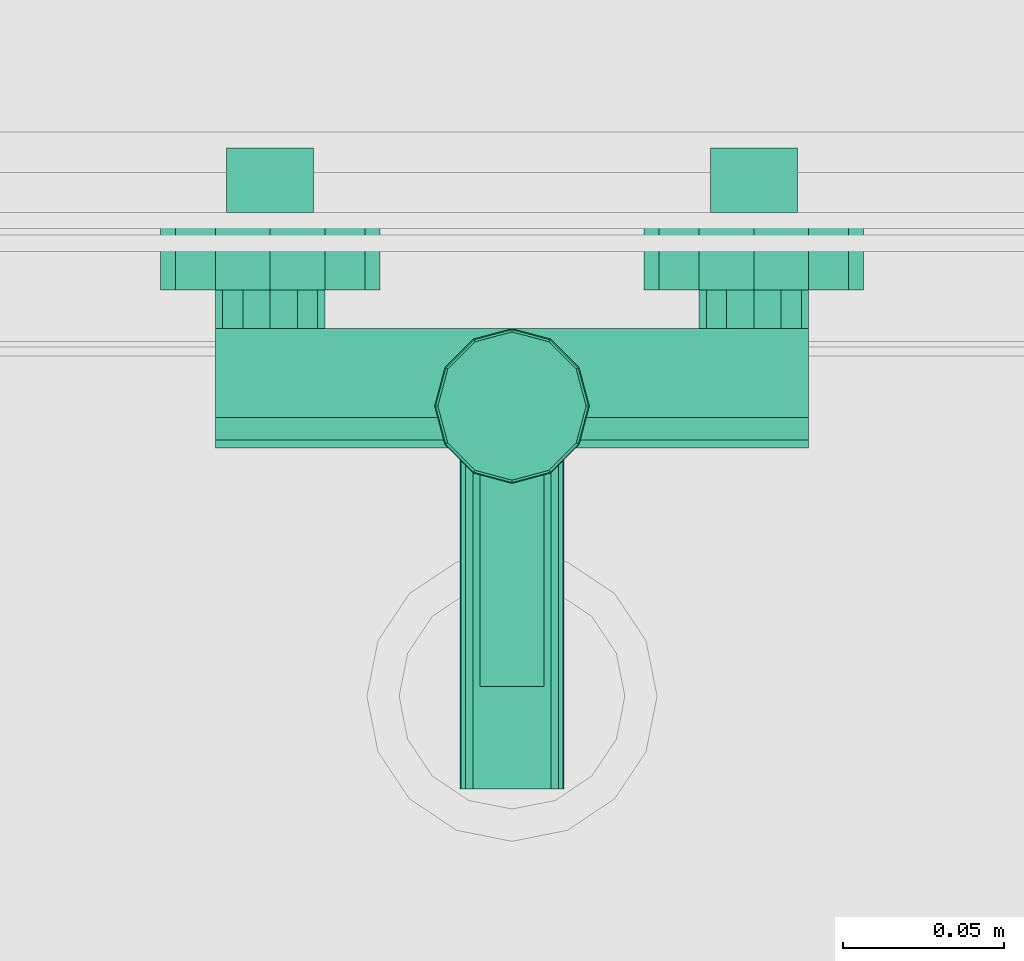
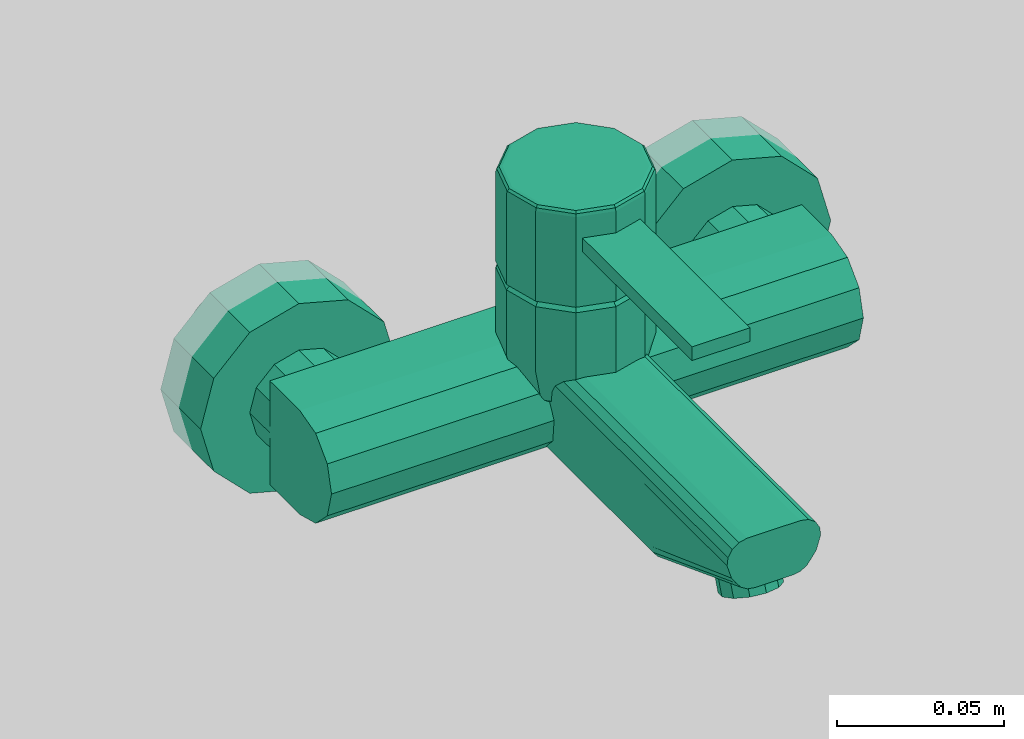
# One storey, part 121 of 165: 1 flow storage device.
"""IFC2X3 building model written with IfcOpenShell, lengths in millimetres."""

from ifc_helpers import new_model, entity, si_unit, converted_unit, derived_unit, money_unit, direction, frame, origin_with_axes, place, context, subcontext, project, spatial, open_shell, faceted_brep, surface_model, source, transform, mapped, type_object, type_shapes, element, save


model = new_model("IFC2X3")

# Units and contexts
model_context = context("Model", 3, precision=0.01, world=origin_with_axes(), true_north=direction((0.0, 1.0)))
body_context = subcontext(model_context, "Body", "Model", "MODEL_VIEW")
ifc_project = project(units=[si_unit("LENGTHUNIT", "METRE", prefix="MILLI"), si_unit("AREAUNIT", "SQUARE_METRE"), si_unit("VOLUMEUNIT", "CUBIC_METRE"), converted_unit("PLANEANGLEUNIT", "DEGREE", entity("IfcPlaneAngleMeasure", 0.0174532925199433), si_unit("PLANEANGLEUNIT", "RADIAN"), dimensions=[0, 0, 0, 0, 0, 0, 0]), money_unit("EUR"), converted_unit("TIMEUNIT", "Year", entity("IfcTimeMeasure", 31556926.0), si_unit("TIMEUNIT", "SECOND"), dimensions=[0, 0, 1, 0, 0, 0, 0]), si_unit("MASSUNIT", "GRAM", prefix="KILO"), si_unit("THERMODYNAMICTEMPERATUREUNIT", "DEGREE_CELSIUS"), si_unit("LUMINOUSINTENSITYUNIT", "LUMEN"), si_unit("ENERGYUNIT", "JOULE", prefix="MEGA"), derived_unit("THERMALCONDUCTANCEUNIT", [(si_unit("POWERUNIT", "WATT"), 1), (si_unit("LENGTHUNIT", "METRE"), -1), (si_unit("THERMODYNAMICTEMPERATUREUNIT", "KELVIN"), -1)]), derived_unit("SPECIFICHEATCAPACITYUNIT", [(si_unit("ENERGYUNIT", "JOULE"), 1), (si_unit("MASSUNIT", "GRAM", prefix="KILO"), -1), (si_unit("THERMODYNAMICTEMPERATUREUNIT", "KELVIN"), -1)]), derived_unit("MASSDENSITYUNIT", [(si_unit("MASSUNIT", "GRAM", prefix="KILO"), 1), (si_unit("VOLUMEUNIT", "CUBIC_METRE"), -1)])], contexts=[model_context])

# Site, building, storey
site_placement = place(None, origin_with_axes())
site = spatial("IfcSite", under=ifc_project, at=site_placement, Name="Site", CompositionType="ELEMENT")
building_placement = place(site_placement, origin_with_axes())
building = spatial("IfcBuilding", under=site, at=building_placement, Name="Naam gebouw", CompositionType="ELEMENT")
storey_placement = place(building_placement, origin_with_axes())
storey = spatial("IfcBuildingStorey", under=building, at=storey_placement, Name="Begane grond", CompositionType="ELEMENT", Elevation=0.0)

# Flow storage device
tank_type = type_object("IfcTankType", Name="Kraan wand 26", PredefinedType="EXPANSION")
shared_shape = source(origin_with_axes(), body_context, "Body", "SurfaceModel", [
    faceted_brep([(-45.55513627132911, 0.0, 1183.0), (-58.00000000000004, 0.0, 1170.555136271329), (-75.00000000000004, 0.0, 1166.0), (-92.00000000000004, 0.0, 1170.555136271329), (-104.4448637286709, 0.0, 1183.0), (-109.0, 0.0, 1200.0), (-104.4448637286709, 0.0, 1217.0), (-92.0, 0.0, 1229.444863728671), (-75.0, 0.0, 1234.0), (-58.0, 0.0, 1229.444863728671), (-45.5551362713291, 0.0, 1217.0), (-41.00000000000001, 0.0, 1200.0), (-45.55513627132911, -24.0, 1183.0), (-58.00000000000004, -24.0, 1170.555136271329), (-75.00000000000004, -24.0, 1166.0), (-92.00000000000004, -24.0, 1170.555136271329), (-104.4448637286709, -24.0, 1183.0), (-109.0, -24.0, 1200.0), (-104.4448637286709, -24.0, 1217.0), (-92.0, -24.0, 1229.444863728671), (-75.0, -24.0, 1234.0), (-58.0, -24.0, 1229.444863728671), (-45.5551362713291, -24.0, 1217.0), (-41.00000000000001, -24.0, 1200.0)], [[[0, 1, 2, 3, 4, 5, 6, 7, 8, 9, 10, 11]], [[1, 0, 12, 13]], [[2, 1, 13, 14]], [[3, 2, 14, 15]], [[4, 3, 15, 16]], [[5, 4, 16, 17]], [[6, 5, 17, 18]], [[7, 6, 18, 19]], [[8, 7, 19, 20]], [[9, 8, 20, 21]], [[10, 9, 21, 22]], [[11, 10, 22, 23]], [[0, 11, 23, 12]], [[12, 23, 22, 21, 20, 19, 18, 17, 16, 15, 14, 13]]]),
    faceted_brep([(-60.27756813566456, -24.0, 1191.5), (-66.50000000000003, -24.0, 1185.277568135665), (-75.00000000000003, -24.0, 1183.0), (-83.50000000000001, -24.0, 1185.277568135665), (-89.72243186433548, -24.0, 1191.5), (-92.00000000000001, -24.0, 1200.0), (-89.72243186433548, -24.0, 1208.5), (-83.5, -24.0, 1214.722431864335), (-75.00000000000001, -24.0, 1217.0), (-66.5, -24.0, 1214.722431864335), (-60.27756813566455, -24.0, 1208.5), (-58.00000000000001, -24.0, 1200.0), (-60.27756813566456, -36.00000000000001, 1191.5), (-66.50000000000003, -36.00000000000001, 1185.277568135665), (-75.00000000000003, -36.00000000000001, 1183.0), (-83.50000000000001, -36.00000000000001, 1185.277568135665), (-89.72243186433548, -36.00000000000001, 1191.5), (-92.00000000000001, -36.00000000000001, 1200.0), (-89.72243186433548, -36.00000000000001, 1208.5), (-83.5, -36.0, 1214.722431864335), (-75.00000000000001, -36.0, 1217.0), (-66.5, -36.0, 1214.722431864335), (-60.27756813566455, -36.00000000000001, 1208.5), (-58.00000000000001, -36.00000000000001, 1200.0)], [[[0, 1, 2, 3, 4, 5, 6, 7, 8, 9, 10, 11]], [[1, 0, 12, 13]], [[2, 1, 13, 14]], [[3, 2, 14, 15]], [[4, 3, 15, 16]], [[5, 4, 16, 17]], [[6, 5, 17, 18]], [[7, 6, 18, 19]], [[8, 7, 19, 20]], [[9, 8, 20, 21]], [[10, 9, 21, 22]], [[11, 10, 22, 23]], [[0, 11, 23, 12]], [[12, 23, 22, 21, 20, 19, 18, 17, 16, 15, 14, 13]]]),
    faceted_brep([(45.55513627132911, 0.0, 1183.0), (41.00000000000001, 0.0, 1200.0), (45.5551362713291, 0.0, 1217.0), (58.0, 0.0, 1229.444863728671), (75.0, 0.0, 1234.0), (92.0, 0.0, 1229.444863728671), (104.4448637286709, 0.0, 1217.0), (109.0, 0.0, 1200.0), (104.4448637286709, 0.0, 1183.0), (92.00000000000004, 0.0, 1170.555136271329), (75.00000000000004, 0.0, 1166.0), (58.00000000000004, 0.0, 1170.555136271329), (45.55513627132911, -24.0, 1183.0), (41.00000000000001, -24.0, 1200.0), (45.5551362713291, -24.0, 1217.0), (58.0, -24.0, 1229.444863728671), (75.0, -24.0, 1234.0), (92.0, -24.0, 1229.444863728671), (104.4448637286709, -24.0, 1217.0), (109.0, -24.0, 1200.0), (104.4448637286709, -24.0, 1183.0), (92.00000000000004, -24.0, 1170.555136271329), (75.00000000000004, -24.0, 1166.0), (58.00000000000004, -24.0, 1170.555136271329)], [[[0, 1, 2, 3, 4, 5, 6, 7, 8, 9, 10, 11]], [[0, 12, 13, 1]], [[1, 13, 14, 2]], [[2, 14, 15, 3]], [[3, 15, 16, 4]], [[4, 16, 17, 5]], [[5, 17, 18, 6]], [[6, 18, 19, 7]], [[7, 19, 20, 8]], [[8, 20, 21, 9]], [[9, 21, 22, 10]], [[10, 22, 23, 11]], [[11, 23, 12, 0]], [[12, 23, 22, 21, 20, 19, 18, 17, 16, 15, 14, 13]]]),
    faceted_brep([(60.27756813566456, -24.0, 1191.5), (58.00000000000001, -24.0, 1200.0), (60.27756813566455, -24.0, 1208.5), (66.5, -24.0, 1214.722431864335), (75.00000000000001, -24.0, 1217.0), (83.5, -24.0, 1214.722431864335), (89.72243186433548, -24.0, 1208.5), (92.00000000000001, -24.0, 1200.0), (89.72243186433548, -24.0, 1191.5), (83.50000000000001, -24.0, 1185.277568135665), (75.00000000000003, -24.0, 1183.0), (66.50000000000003, -24.0, 1185.277568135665), (60.27756813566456, -36.00000000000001, 1191.5), (58.00000000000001, -36.00000000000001, 1200.0), (60.27756813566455, -36.00000000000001, 1208.5), (66.5, -36.0, 1214.722431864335), (75.00000000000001, -36.0, 1217.0), (83.5, -36.0, 1214.722431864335), (89.72243186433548, -36.00000000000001, 1208.5), (92.00000000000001, -36.00000000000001, 1200.0), (89.72243186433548, -36.00000000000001, 1191.5), (83.50000000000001, -36.00000000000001, 1185.277568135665), (75.00000000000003, -36.00000000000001, 1183.0), (66.50000000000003, -36.00000000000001, 1185.277568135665)], [[[0, 1, 2, 3, 4, 5, 6, 7, 8, 9, 10, 11]], [[0, 12, 13, 1]], [[1, 13, 14, 2]], [[2, 14, 15, 3]], [[3, 15, 16, 4]], [[4, 16, 17, 5]], [[5, 17, 18, 6]], [[6, 18, 19, 7]], [[7, 19, 20, 8]], [[8, 20, 21, 9]], [[9, 21, 22, 10]], [[10, 22, 23, 11]], [[11, 23, 12, 0]], [[12, 23, 22, 21, 20, 19, 18, 17, 16, 15, 14, 13]]]),
    faceted_brep([(22.39230484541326, -54.0, 1219.0), (23.56921938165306, -59.99999999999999, 1217.392304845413), (22.3801085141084, -63.5, 1216.454482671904), (92.0, -63.5, 1216.454482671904), (92.0, -54.0, 1219.0), (24.0, -59.99999999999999, 1219.0), (20.78460969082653, -72.0, 1219.0), (18.42264973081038, -70.63632178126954, 1208.821367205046), (18.65321248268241, -70.45448267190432, 1209.5), (92.0, -70.45448267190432, 1209.5), (92.0, -36.00000000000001, 1181.0), (92.0, -36.00000000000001, 1219.0), (92.0, -73.00000000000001, 1200.0), (92.0, -70.45448267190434, 1190.5), (92.0, -63.5, 1183.545517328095), (92.0, -54.00000000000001, 1181.0), (20.78460969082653, -47.99999999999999, 1219.0), (0.0, -36.00000000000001, 1219.0), (12.0, -39.21539030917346, 1219.0), (20.78460969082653, -47.99999999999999, 1243.0), (24.0, -59.99999999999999, 1243.0), (20.78460969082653, -72.0, 1243.0), (17.26794919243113, -71.12435565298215, 1207.0), (12.00000000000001, -80.78460969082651, 1219.0), (11.92314238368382, -80.65148839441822, 1218.426326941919), (12.07189135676, -80.49116546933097, 1218.39470631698), (14.42686544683, -77.50984837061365, 1216.68350539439), (15.88213414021, -75.13176694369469, 1214.16233412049), (16.18602173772, -73.76818909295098, 1211.26720650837), (15.73684210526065, -72.65546274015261, 1207.0), (15.6314139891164, -71.39272474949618, 1205.998432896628), (14.99999999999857, -73.00000000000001, 1200.0), (-92.0, -36.00000000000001, 1181.0), (-92.0, -36.00000000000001, 1219.0), (14.00000000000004, -70.45448267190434, 1190.5), (12.93483876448, -64.77581392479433, 1184.82133125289), (11.95567316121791, -63.5, 1183.545517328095), (13.65970594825, -67.22168918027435, 1187.26720650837), (9.206486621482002, -55.73480068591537, 1181.46483844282), (6.698167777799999, -54.00000000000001, 1181.0), (11.38167317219, -60.70880215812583, 1182.79761812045), (-6.698167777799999, -54.00000000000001, 1181.0), (-92.0, -54.00000000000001, 1181.0), (6.698167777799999, -128.7, 1181.0), (-6.698167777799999, -128.7, 1181.0), (0.0, -36.00000000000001, 1243.0), (12.0, -39.21539030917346, 1243.0), (19.05255888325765, -48.99999999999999, 1245.0), (22.0, -59.99999999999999, 1245.0), (19.05255888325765, -71.0, 1245.0), (12.00000000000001, -80.78460969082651, 1243.0), (9.224483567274, -81.52830707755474, 1219.0), (9.224483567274, -178.7, 1219.0), (12.07189135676, -178.7, 1218.39470631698), (14.42686544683, -178.7, 1216.68350539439), (15.88213414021, -178.7, 1214.16233412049), (16.18602173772, -178.7, 1211.26720650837), (13.65970594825, -128.7, 1187.26720650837), (-92.0, -54.0, 1219.0), (-92.0, -63.5, 1183.545517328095), (-92.0, -70.45448267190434, 1190.5), (-92.0, -73.00000000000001, 1200.0), (-92.0, -70.45448267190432, 1209.5), (-92.0, -63.5, 1216.454482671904), (-12.00000000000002, -39.21539030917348, 1219.0), (-22.39230484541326, -54.0, 1219.0), (-20.78460969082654, -48.00000000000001, 1219.0), (12.93483876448, -128.7, 1184.82133125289), (11.38167317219, -128.7, 1182.79761812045), (9.206486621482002, -128.7, 1181.46483844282), (-11.38167317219, -60.70880215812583, 1182.79761812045), (-11.95567316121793, -63.5, 1183.545517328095), (-9.206486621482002, -55.73480068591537, 1181.46483844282), (-6.698167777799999, -156.6122297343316, 1191.606647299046), (6.698167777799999, -156.6122297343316, 1191.606647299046), (5.000000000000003, -155.02481037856, 1191.003427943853), (0.0, -153.7724378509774, 1190.527526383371), (-4.999999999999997, -155.02481037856, 1191.003427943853), (-9.206486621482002, -128.7, 1181.46483844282), (-12.00000000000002, -39.21539030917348, 1243.0), (0.0, -38.00000000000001, 1245.0), (11.0, -40.94744111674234, 1245.0), (-20.78460969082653, -47.99999999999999, 1245.0), (-12.0, -39.21539030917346, 1245.0), (0.0, -36.00000000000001, 1245.0), (12.00000000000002, -39.21539030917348, 1245.0), (20.78460969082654, -48.00000000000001, 1245.0), (24.0, -60.00000000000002, 1245.0), (20.78460969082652, -72.00000000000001, 1245.0), (11.99999999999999, -80.78460969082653, 1245.0), (0.0, -83.99999999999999, 1245.0), (-12.00000000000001, -80.78460969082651, 1245.0), (-20.78460969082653, -72.0, 1245.0), (-24.0, -59.99999999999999, 1245.0), (11.00000000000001, -79.05255888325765, 1245.0), (-11.00000000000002, -40.94744111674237, 1245.0), (-19.05255888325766, -49.00000000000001, 1245.0), (-22.0, -60.00000000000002, 1245.0), (-19.05255888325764, -71.00000000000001, 1245.0), (-10.99999999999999, -79.05255888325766, 1245.0), (0.0, -81.99999999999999, 1245.0), (0.0, -83.99999999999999, 1243.0), (0.0, -83.99999999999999, 1219.0), (-15.88213414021, -178.7, 1214.16233412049), (-16.18602173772, -178.7, 1211.26720650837), (-14.65970594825, -178.7, 1206.26720650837), (-12.93483876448, -178.7, 1203.82133125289), (-11.38167317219, -178.7, 1201.79761812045), (-9.206486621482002, -178.7, 1200.46483844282), (-6.698167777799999, -178.7, 1200.0), (6.698167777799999, -178.7, 1200.0), (9.206486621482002, -178.7, 1200.46483844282), (11.38167317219, -178.7, 1201.79761812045), (12.93483876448, -178.7, 1203.82133125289), (14.65970594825, -178.7, 1206.26720650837), (-9.224483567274, -178.7, 1219.0), (-12.07189135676, -178.7, 1218.39470631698), (-14.42686544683, -178.7, 1216.68350539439), (-9.224483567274, -81.52830707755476, 1219.0), (-13.65970594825, -67.22168918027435, 1187.26720650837), (-14.00000000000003, -70.45448267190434, 1190.5), (-12.93483876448, -64.77581392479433, 1184.82133125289), (-14.99999999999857, -73.00000000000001, 1200.0), (-18.42264973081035, -70.63632178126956, 1208.821367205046), (-18.65321248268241, -70.45448267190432, 1209.5), (-15.63141398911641, -71.39272474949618, 1205.998432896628), (-17.26794919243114, -71.12435565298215, 1207.0), (-22.38010851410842, -63.5, 1216.454482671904), (-23.56921938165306, -60.00000000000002, 1217.392304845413), (-24.0, -60.00000000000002, 1219.0), (-24.0, -60.00000000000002, 1243.0), (-20.78460969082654, -48.00000000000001, 1243.0), (9.206486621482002, -160.1976250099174, 1193.433935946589), (8.660254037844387, -158.3256179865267, 1192.621346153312), (9.206486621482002, -165.7342214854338, 1195.537842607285), (10.0, -162.8044792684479, 1194.910741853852), (-11.38167317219, -128.7, 1182.79761812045), (-12.93483876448, -128.7, 1184.82133125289), (-9.206486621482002, -160.1976250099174, 1193.433935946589), (-8.660254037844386, -158.3256179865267, 1192.621346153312), (8.660254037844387, -160.222444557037, 1187.629697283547), (5.000000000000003, -156.8008991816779, 1186.329510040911), (0.0, -155.5485266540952, 1185.85360848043), (-4.999999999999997, -156.8008991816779, 1186.329510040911), (-8.660254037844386, -160.222444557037, 1187.629697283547), (-20.78460969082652, -47.99999999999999, 1278.0), (-12.0, -39.21539030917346, 1278.0), (0.0, -36.00000000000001, 1278.0), (12.00000000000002, -39.21539030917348, 1278.0), (20.78460969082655, -48.00000000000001, 1278.0), (24.0, -60.00000000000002, 1278.0), (20.78460969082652, -72.00000000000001, 1278.0), (11.99999999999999, -80.78460969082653, 1278.0), (0.0, -83.99999999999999, 1278.0), (0.0, -83.99999999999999, 1270.0), (10.0, -81.32050807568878, 1270.0), (10.0, -81.32050807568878, 1265.0), (0.0, -83.99999999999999, 1265.0), (-10.0, -81.32050807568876, 1265.0), (-10.0, -81.32050807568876, 1270.0), (-12.00000000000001, -80.78460969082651, 1278.0), (-20.78460969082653, -72.0, 1278.0), (-24.0, -59.99999999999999, 1278.0), (-20.78460969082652, -72.00000000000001, 1243.0), (-11.99999999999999, -80.78460969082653, 1243.0), (-11.99999999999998, -80.78460969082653, 1219.0), (-15.88213414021, -75.1317669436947, 1214.16233412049), (-16.18602173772, -73.76818909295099, 1211.26720650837), (-16.18602173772, -128.7, 1211.26720650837), (-13.65970594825, -128.7, 1187.26720650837), (-10.0, -162.8044792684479, 1194.910741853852), (-9.206486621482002, -165.7342214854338, 1195.537842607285), (-8.66025403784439, -167.6734537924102, 1196.173523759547), (-6.698167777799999, -169.6283175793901, 1196.552760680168), (0.0, -172.4681094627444, 1197.631881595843), (4.999999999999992, -171.2157369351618, 1197.155980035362), (6.698167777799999, -169.6283175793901, 1196.552760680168), (-5.000000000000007, -171.2157369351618, 1197.155980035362), (8.660254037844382, -167.6734537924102, 1196.173523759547), (-11.92314238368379, -80.65148839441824, 1218.426326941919), (-12.07189135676, -80.49116546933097, 1218.39470631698), (-14.42686544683, -77.50984837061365, 1216.68350539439), (-15.73684210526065, -72.65546274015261, 1207.0), (-20.78460969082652, -72.00000000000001, 1219.0), (10.0, -164.8963624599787, 1189.405786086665), (8.660254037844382, -169.5702803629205, 1191.181874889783), (-10.0, -164.8963624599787, 1189.405786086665), (4.999999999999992, -172.9918257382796, 1192.48206213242), (0.0, -174.2441982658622, 1192.957963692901), (-5.000000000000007, -172.9918257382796, 1192.48206213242), (-8.66025403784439, -169.5702803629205, 1191.181874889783), (-20.55255888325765, -48.13397459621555, 1279.0), (-11.86602540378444, -39.44744111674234, 1279.0), (0.0, -36.26794919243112, 1279.0), (11.86602540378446, -39.44744111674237, 1279.0), (20.55255888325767, -48.13397459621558, 1279.0), (23.73205080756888, -60.00000000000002, 1279.0), (20.55255888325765, -71.86602540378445, 1279.0), (11.86602540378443, -80.55255888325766, 1279.0), (10.0, -147.0, 1270.0), (-10.0, -147.0, 1270.0), (10.0, -147.0, 1265.0), (-10.0, -147.0, 1265.0), (0.0, -83.73205080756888, 1279.0), (-11.86602540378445, -80.55255888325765, 1279.0), (-20.55255888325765, -71.86602540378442, 1279.0), (-23.73205080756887, -59.99999999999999, 1279.0), (-19.91858428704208, -48.49999999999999, 1279.732050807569), (-11.5, -40.08141571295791, 1279.732050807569), (0.0, -37.00000000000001, 1279.732050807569), (11.50000000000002, -40.08141571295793, 1279.732050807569), (19.9185842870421, -48.50000000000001, 1279.732050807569), (23.0, -60.00000000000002, 1279.732050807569), (19.91858428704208, -71.50000000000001, 1279.732050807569), (11.49999999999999, -79.9185842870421, 1279.732050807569), (0.0, -82.99999999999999, 1279.732050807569), (-11.50000000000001, -79.91858428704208, 1279.732050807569), (-19.91858428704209, -71.5, 1279.732050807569), (-23.0, -59.99999999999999, 1279.732050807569), (-19.05255888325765, -48.99999999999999, 1280.0), (-11.0, -40.94744111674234, 1280.0), (0.0, -38.00000000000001, 1280.0), (11.00000000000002, -40.94744111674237, 1280.0), (19.05255888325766, -49.00000000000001, 1280.0), (22.0, -60.00000000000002, 1280.0), (19.05255888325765, -71.00000000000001, 1280.0), (10.99999999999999, -79.05255888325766, 1280.0), (0.0, -81.99999999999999, 1280.0), (-11.00000000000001, -79.05255888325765, 1280.0), (-19.05255888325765, -71.0, 1280.0), (-22.0, -59.99999999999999, 1280.0), (0.0, -60.0, 1280.0)], [[[0, 1, 2, 3, 4]], [[1, 0, 5]], [[2, 1, 5, 6, 7, 8]], [[2, 8, 9, 3]], [[10, 11, 4, 3, 9, 12, 13, 14, 15]], [[16, 0, 4, 11, 17, 18]], [[0, 16, 19, 20, 5]], [[20, 21, 6, 5]], [[22, 7, 6, 23, 24, 25, 26, 27, 28, 29]], [[30, 31, 12, 9, 8, 7, 22]], [[10, 32, 33, 17, 11]], [[31, 34, 13, 12]], [[35, 36, 14, 13, 34, 37]], [[38, 39, 15, 14, 36, 40]], [[41, 42, 32, 10, 15, 39, 43, 44]], [[18, 17, 45, 46]], [[16, 18, 46, 19]], [[19, 47, 48, 20]], [[20, 48, 49, 21]], [[21, 50, 23, 6]], [[23, 51, 24]], [[52, 53, 25, 24, 51]], [[53, 54, 26, 25]], [[54, 55, 27, 26]], [[56, 28, 27, 55]], [[31, 30, 29, 28, 56, 57, 37, 34]], [[30, 22, 29]], [[58, 33, 32, 42, 59, 60, 61, 62, 63]], [[64, 17, 33, 58, 65, 66]], [[36, 35, 67, 68, 40]], [[35, 37, 57, 67]], [[39, 38, 69, 43]], [[38, 40, 68, 69]], [[70, 71, 59, 42, 41, 72]], [[73, 44, 43, 74, 75, 76, 77]], [[72, 41, 44, 78]], [[17, 64, 79, 45]], [[45, 80, 81, 46]], [[46, 81, 47, 19]], [[82, 83, 84, 85, 86, 87, 88, 89, 90, 91, 92, 93], [94, 49, 48, 47, 81, 80, 95, 96, 97, 98, 99, 100]], [[21, 49, 94, 50]], [[101, 102, 51, 23, 50]], [[103, 104, 105, 106, 107, 108, 109, 110, 111, 112, 113, 114, 56, 55, 54, 53, 52, 115, 116, 117]], [[115, 52, 51, 102, 118]], [[56, 114, 57]], [[119, 120, 60, 59, 71, 121]], [[120, 122, 61, 60]], [[123, 124, 62, 61, 122, 125, 126]], [[124, 127, 63, 62]], [[128, 65, 58, 63, 127]], [[66, 65, 129, 130, 131]], [[64, 66, 131, 79]], [[112, 68, 67, 113]], [[114, 67, 57]], [[74, 43, 69, 132, 133]], [[132, 69, 68, 112, 111, 134, 135]], [[71, 70, 136, 137, 121]], [[70, 72, 78, 136]], [[138, 78, 44, 73, 139]], [[75, 74, 133, 140, 141]], [[142, 76, 75, 141]], [[143, 77, 76, 142]], [[139, 73, 77, 143, 144]], [[79, 95, 80, 45]], [[83, 82, 145, 146]], [[84, 83, 146, 147]], [[85, 84, 147, 148]], [[86, 85, 148, 149]], [[87, 86, 149, 150]], [[88, 87, 150, 151]], [[89, 88, 151, 152]], [[153, 154, 155, 156, 157, 90, 89, 152]], [[158, 159, 154, 153, 160, 91, 90, 157]], [[92, 91, 160, 161]], [[93, 92, 161, 162]], [[82, 93, 162, 145]], [[131, 96, 95, 79]], [[130, 97, 96, 131]], [[163, 98, 97, 130]], [[164, 99, 98, 163]], [[101, 100, 99, 164]], [[50, 94, 100, 101]], [[165, 118, 102, 101, 164]], [[104, 103, 166, 167, 168]], [[105, 104, 168]], [[106, 105, 169]], [[106, 137, 136, 107]], [[107, 136, 78, 138, 170, 171, 108]], [[171, 172, 173, 109, 108]], [[174, 175, 176, 110, 109, 173, 177]], [[176, 178, 134, 111, 110]], [[114, 113, 67]], [[116, 115, 118, 179, 180]], [[117, 116, 180, 181]], [[103, 117, 181, 166]], [[120, 119, 169, 168, 167, 182, 125, 122]], [[119, 121, 137, 169]], [[124, 123, 183, 129, 128, 127]], [[126, 125, 182]], [[123, 126, 182, 167, 166, 181, 180, 179, 165, 183]], [[65, 128, 129]], [[163, 130, 129, 183]], [[133, 132, 135, 184, 140]], [[135, 134, 178, 185, 184]], [[170, 138, 139, 144, 186]], [[140, 184, 185, 187, 188, 189, 190, 186, 144, 143, 142, 141]], [[146, 145, 191, 192]], [[147, 146, 192, 193]], [[148, 147, 193, 194]], [[149, 148, 194, 195]], [[150, 149, 195, 196]], [[151, 150, 196, 197]], [[152, 151, 197, 198]], [[199, 155, 154, 159, 200]], [[201, 156, 155, 199]], [[158, 157, 156, 201, 202]], [[153, 152, 198, 203]], [[200, 159, 158, 202]], [[160, 153, 203, 204]], [[161, 160, 204, 205]], [[162, 161, 205, 206]], [[145, 162, 206, 191]], [[164, 163, 183, 165]], [[165, 179, 118]], [[105, 168, 169]], [[106, 169, 137]], [[172, 171, 170, 186, 190]], [[177, 173, 172, 190, 189]], [[187, 175, 174, 188]], [[178, 176, 175, 187, 185]], [[188, 174, 177, 189]], [[192, 191, 207, 208]], [[193, 192, 208, 209]], [[194, 193, 209, 210]], [[195, 194, 210, 211]], [[196, 195, 211, 212]], [[197, 196, 212, 213]], [[198, 197, 213, 214]], [[199, 200, 202, 201]], [[203, 198, 214, 215]], [[204, 203, 215, 216]], [[205, 204, 216, 217]], [[206, 205, 217, 218]], [[191, 206, 218, 207]], [[208, 207, 219, 220]], [[209, 208, 220, 221]], [[210, 209, 221, 222]], [[211, 210, 222, 223]], [[212, 211, 223, 224]], [[213, 212, 224, 225]], [[214, 213, 225, 226]], [[215, 214, 226, 227]], [[216, 215, 227, 228]], [[217, 216, 228, 229]], [[218, 217, 229, 230]], [[207, 218, 230, 219]], [[220, 219, 231]], [[221, 220, 231]], [[222, 221, 231]], [[223, 222, 231]], [[224, 223, 231]], [[225, 224, 231]], [[226, 225, 231]], [[227, 226, 231]], [[228, 227, 231]], [[229, 228, 231]], [[230, 229, 231]], [[219, 230, 231]]]),
    surface_model("IfcShellBasedSurfaceModel", [(-75.0, 0.0, 1186.5), (-77.34425039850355, 0.0, 1186.705095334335), (-77.34425039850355, 20.0, 1186.705095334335), (-75.0, 20.0, 1186.5), (-79.61727193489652, 0.0, 1187.31414961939), (-79.61727193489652, 20.0, 1187.31414961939), (-72.65574960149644, 0.0, 1186.705095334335), (-72.65574960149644, 20.0, 1186.705095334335), (-81.74999999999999, 0.0, 1188.30865704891), (-81.74999999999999, 20.0, 1188.30865704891), (-70.38272806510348, 0.0, 1187.31414961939), (-70.38272806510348, 20.0, 1187.31414961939), (-83.67763273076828, 0.0, 1189.658400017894), (-83.67763273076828, 20.0, 1189.658400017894), (-68.25, 0.0, 1188.30865704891), (-68.25, 20.0, 1188.30865704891), (-85.34159998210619, 0.0, 1191.322367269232), (-85.34159998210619, 20.0, 1191.322367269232), (-66.32236726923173, 0.0, 1189.658400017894), (-66.32236726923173, 20.0, 1189.658400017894), (-86.69134295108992, 0.0, 1193.25), (-86.69134295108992, 20.0, 1193.25), (-64.65840001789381, 0.0, 1191.322367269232), (-64.65840001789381, 20.0, 1191.322367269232), (-87.68585038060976, 0.0, 1195.382728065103), (-87.68585038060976, 20.0, 1195.382728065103), (-63.30865704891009, 0.0, 1193.25), (-63.30865704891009, 20.0, 1193.25), (-88.2949046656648, 0.0, 1197.655749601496), (-88.2949046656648, 20.0, 1197.655749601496), (-62.31414961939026, 0.0, 1195.382728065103), (-62.31414961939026, 20.0, 1195.382728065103), (-88.5, 0.0, 1200.0), (-88.5, 20.0, 1200.0), (-61.7050953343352, 0.0, 1197.655749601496), (-61.7050953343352, 20.0, 1197.655749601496), (-88.2949046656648, 0.0, 1202.344250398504), (-88.2949046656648, 20.0, 1202.344250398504), (-61.50000000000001, 0.0, 1200.0), (-61.50000000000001, 20.0, 1200.0), (-87.68585038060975, 0.0, 1204.617271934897), (-87.68585038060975, 20.0, 1204.617271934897), (-61.7050953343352, 0.0, 1202.344250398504), (-61.7050953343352, 20.0, 1202.344250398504), (-86.69134295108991, 0.0, 1206.75), (-86.69134295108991, 20.0, 1206.75), (-62.31414961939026, 0.0, 1204.617271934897), (-62.31414961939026, 20.0, 1204.617271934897), (-85.34159998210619, 0.0, 1208.677632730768), (-85.34159998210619, 20.0, 1208.677632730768), (-63.30865704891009, 0.0, 1206.75), (-63.30865704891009, 20.0, 1206.75), (-83.67763273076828, 0.0, 1210.341599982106), (-83.67763273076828, 20.0, 1210.341599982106), (-64.6584000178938, 0.0, 1208.677632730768), (-64.6584000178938, 20.0, 1208.677632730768), (-81.74999999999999, 0.0, 1211.69134295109), (-81.74999999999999, 20.0, 1211.69134295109), (-66.32236726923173, 0.0, 1210.341599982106), (-66.32236726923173, 20.0, 1210.341599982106), (-79.61727193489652, 0.0, 1212.68585038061), (-79.61727193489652, 20.0, 1212.68585038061), (-68.25, 0.0, 1211.69134295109), (-68.25, 20.0, 1211.69134295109), (-77.34425039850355, 0.0, 1213.294904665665), (-77.34425039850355, 20.0, 1213.294904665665), (-70.38272806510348, 0.0, 1212.68585038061), (-70.38272806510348, 20.0, 1212.68585038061), (-75.0, 0.0, 1213.5), (-75.0, 20.0, 1213.5), (-72.65574960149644, 0.0, 1213.294904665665), (-72.65574960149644, 20.0, 1213.294904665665)], [open_shell([[[0, 1, 2, 3]], [[1, 4, 5, 2]], [[6, 0, 3, 7]], [[4, 8, 9, 5]], [[10, 6, 7, 11]], [[8, 12, 13, 9]], [[14, 10, 11, 15]], [[12, 16, 17, 13]], [[18, 14, 15, 19]], [[16, 20, 21, 17]], [[22, 18, 19, 23]], [[20, 24, 25, 21]], [[26, 22, 23, 27]], [[24, 28, 29, 25]], [[30, 26, 27, 31]], [[28, 32, 33, 29]], [[34, 30, 31, 35]], [[32, 36, 37, 33]], [[38, 34, 35, 39]], [[36, 40, 41, 37]], [[42, 38, 39, 43]], [[40, 44, 45, 41]], [[46, 42, 43, 47]], [[44, 48, 49, 45]], [[50, 46, 47, 51]], [[48, 52, 53, 49]], [[54, 50, 51, 55]], [[52, 56, 57, 53]], [[58, 54, 55, 59]], [[56, 60, 61, 57]], [[62, 58, 59, 63]], [[60, 64, 65, 61]], [[66, 62, 63, 67]], [[64, 68, 69, 65]], [[70, 66, 67, 71]], [[68, 70, 71, 69]]])]),
    surface_model("IfcShellBasedSurfaceModel", [(75.0, 0.0, 1186.5), (72.65574960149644, 0.0, 1186.705095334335), (72.65574960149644, 20.0, 1186.705095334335), (75.0, 20.0, 1186.5), (70.38272806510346, 0.0, 1187.31414961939), (70.38272806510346, 20.0, 1187.31414961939), (77.34425039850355, 0.0, 1186.705095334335), (77.34425039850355, 20.0, 1186.705095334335), (68.25, 0.0, 1188.30865704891), (68.25, 20.0, 1188.30865704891), (79.61727193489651, 0.0, 1187.31414961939), (79.61727193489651, 20.0, 1187.31414961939), (66.32236726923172, 0.0, 1189.658400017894), (66.32236726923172, 20.0, 1189.658400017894), (81.74999999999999, 0.0, 1188.30865704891), (81.74999999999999, 20.0, 1188.30865704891), (64.6584000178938, 0.0, 1191.322367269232), (64.6584000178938, 20.0, 1191.322367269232), (83.67763273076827, 0.0, 1189.658400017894), (83.67763273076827, 20.0, 1189.658400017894), (63.30865704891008, 0.0, 1193.25), (63.30865704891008, 20.0, 1193.25), (85.34159998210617, 0.0, 1191.322367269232), (85.34159998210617, 20.0, 1191.322367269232), (62.31414961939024, 0.0, 1195.382728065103), (62.31414961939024, 20.0, 1195.382728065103), (86.69134295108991, 0.0, 1193.25), (86.69134295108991, 20.0, 1193.25), (61.70509533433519, 0.0, 1197.655749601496), (61.70509533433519, 20.0, 1197.655749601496), (87.68585038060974, 0.0, 1195.382728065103), (87.68585038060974, 20.0, 1195.382728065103), (61.5, 0.0, 1200.0), (61.5, 20.0, 1200.0), (88.29490466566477, 0.0, 1197.655749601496), (88.29490466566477, 20.0, 1197.655749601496), (61.70509533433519, 0.0, 1202.344250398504), (61.70509533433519, 20.0, 1202.344250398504), (88.49999999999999, 0.0, 1200.0), (88.49999999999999, 20.0, 1200.0), (62.31414961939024, 0.0, 1204.617271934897), (62.31414961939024, 20.0, 1204.617271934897), (88.29490466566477, 0.0, 1202.344250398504), (88.29490466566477, 20.0, 1202.344250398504), (63.30865704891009, 0.0, 1206.75), (63.30865704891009, 20.0, 1206.75), (87.68585038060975, 0.0, 1204.617271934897), (87.68585038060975, 20.0, 1204.617271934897), (64.6584000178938, 0.0, 1208.677632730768), (64.6584000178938, 20.0, 1208.677632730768), (86.69134295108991, 0.0, 1206.75), (86.69134295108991, 20.0, 1206.75), (66.32236726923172, 0.0, 1210.341599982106), (66.32236726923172, 20.0, 1210.341599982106), (85.34159998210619, 0.0, 1208.677632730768), (85.34159998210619, 20.0, 1208.677632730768), (68.25, 0.0, 1211.69134295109), (68.25, 20.0, 1211.69134295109), (83.67763273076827, 0.0, 1210.341599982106), (83.67763273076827, 20.0, 1210.341599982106), (70.38272806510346, 0.0, 1212.68585038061), (70.38272806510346, 20.0, 1212.68585038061), (81.74999999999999, 0.0, 1211.69134295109), (81.74999999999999, 20.0, 1211.69134295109), (72.65574960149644, 0.0, 1213.294904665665), (72.65574960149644, 20.0, 1213.294904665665), (79.61727193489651, 0.0, 1212.68585038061), (79.61727193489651, 20.0, 1212.68585038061), (75.0, 0.0, 1213.5), (75.0, 20.0, 1213.5), (77.34425039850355, 0.0, 1213.294904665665), (77.34425039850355, 20.0, 1213.294904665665)], [open_shell([[[0, 1, 2, 3]], [[1, 4, 5, 2]], [[6, 0, 3, 7]], [[4, 8, 9, 5]], [[10, 6, 7, 11]], [[8, 12, 13, 9]], [[14, 10, 11, 15]], [[12, 16, 17, 13]], [[18, 14, 15, 19]], [[16, 20, 21, 17]], [[22, 18, 19, 23]], [[20, 24, 25, 21]], [[26, 22, 23, 27]], [[24, 28, 29, 25]], [[30, 26, 27, 31]], [[28, 32, 33, 29]], [[34, 30, 31, 35]], [[32, 36, 37, 33]], [[38, 34, 35, 39]], [[36, 40, 41, 37]], [[42, 38, 39, 43]], [[40, 44, 45, 41]], [[46, 42, 43, 47]], [[44, 48, 49, 45]], [[50, 46, 47, 51]], [[48, 52, 53, 49]], [[54, 50, 51, 55]], [[52, 56, 57, 53]], [[58, 54, 55, 59]], [[56, 60, 61, 57]], [[62, 58, 59, 63]], [[60, 64, 65, 61]], [[66, 62, 63, 67]], [[64, 68, 69, 65]], [[70, 66, 67, 71]], [[68, 70, 71, 69]]])]),
])
type_shapes(tank_type, [shared_shape])
flow_storage_device_placement = place(storey_placement, frame((8337.500000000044, 13380.00012379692, 0.0), z_axis=(0.0, 0.0, 1.0), x_axis=(1.0, 0.0, 0.0)))
element("IfcFlowStorageDevice", 1, at=flow_storage_device_placement, inside=storey, type_object=tank_type, Name="56_Leeg", context=body_context, shape_type="MappedRepresentation", body=[
    mapped(shared_shape, transform((0.0, 0.0, 0.0))),
])

save(model, "model.ifc")
